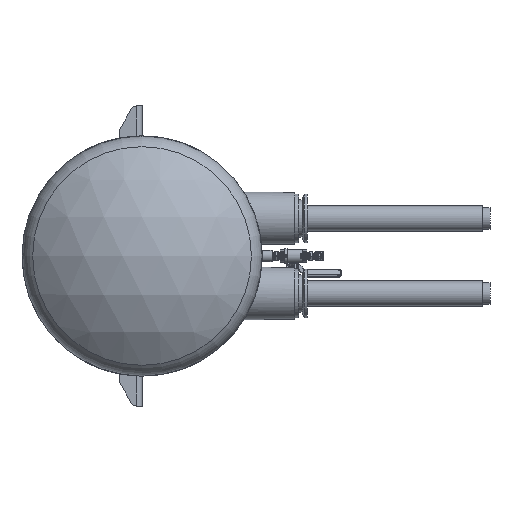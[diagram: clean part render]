
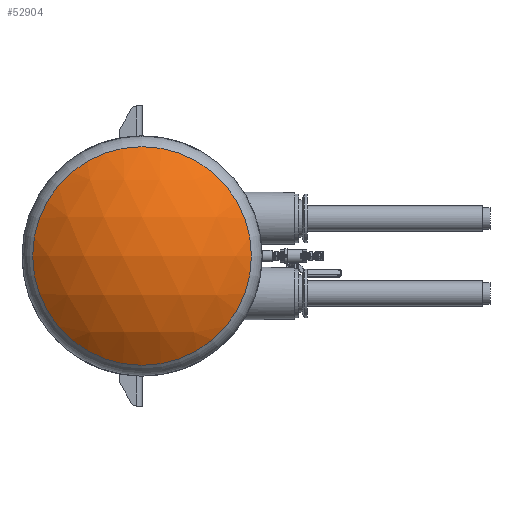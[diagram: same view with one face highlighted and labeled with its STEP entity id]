
A CAD part, left-side view. The second image highlights one B-rep face of the part: STEP entity #52904.
In plain terms, the highlighted spherical face has radius 287.38 mm.
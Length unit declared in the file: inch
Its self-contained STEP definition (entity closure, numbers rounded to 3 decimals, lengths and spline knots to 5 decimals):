
#4220 = AXIS2_PLACEMENT_3D ( 'NONE', #128902, #141849, #140150 ) ;
#15928 = CARTESIAN_POINT ( 'NONE',  ( -43.83975, 0., -7.28836 ) ) ;
#52904 = ADVANCED_FACE ( 'NONE', ( #137226 ), #163197, .T. ) ;
#56805 = AXIS2_PLACEMENT_3D ( 'NONE', #71415, #124257, #138067 ) ;
#67863 = CIRCLE ( 'NONE', #4220, 7.28836 ) ;
#71415 = CARTESIAN_POINT ( 'NONE',  ( -35.18582, 0., 0. ) ) ;
#98478 = ORIENTED_EDGE ( 'NONE', *, *, #169478, .F. ) ;
#124257 = DIRECTION ( 'NONE',  ( 0., 0., 1. ) ) ;
#128902 = CARTESIAN_POINT ( 'NONE',  ( -43.83975, 0., 0. ) ) ;
#137226 = FACE_OUTER_BOUND ( 'NONE', #166821, .T. ) ;
#138067 = DIRECTION ( 'NONE',  ( 0., 1., 0. ) ) ;
#140150 = DIRECTION ( 'NONE',  ( 0., 0., -1. ) ) ;
#141849 = DIRECTION ( 'NONE',  ( 1., 0., 0. ) ) ;
#145748 = VERTEX_POINT ( 'NONE', #15928 ) ;
#163197 = SPHERICAL_SURFACE ( 'NONE', #56805, 11.31418 ) ;
#166821 = EDGE_LOOP ( 'NONE', ( #98478 ) ) ;
#169478 = EDGE_CURVE ( 'NONE', #145748, #145748, #67863, .T. ) ;
